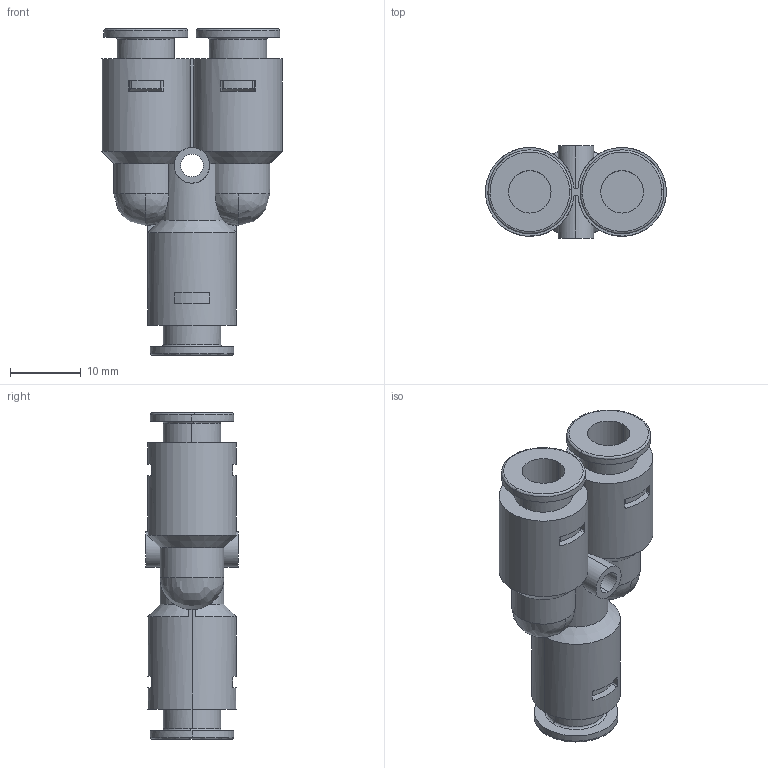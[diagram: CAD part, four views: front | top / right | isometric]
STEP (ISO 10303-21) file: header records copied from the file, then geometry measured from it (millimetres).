
FILE_DESCRIPTION (( 'STEP AP214' ), '1' );
FILE_NAME ('KQ2U06-00A.STEP', '2023-03-06T08:55:29', ( 'Windows User' ), ( 'P R C' ), 'SwSTEP 2.0', 'SolidWorks 2019', '' );
FILE_SCHEMA (( 'AUTOMOTIVE_DESIGN' ));
Length unit declared in the file: millimetre
Products named in the file (1): KQ2U06-00A
Bounding box: 25.48 x 13 x 46 mm (x, y, z)
Volume: 5663.8 mm3; surface area: 4778 mm2
Topology: 1 solids, 1 shells, 158 faces, 437 edges, 288 vertices
Faces by surface type: cylinder 76, plane 55, bspline 16, cone 11
Entity records: 5983 total; most frequent: CARTESIAN_POINT 2088, ORIENTED_EDGE 858, DIRECTION 759, EDGE_CURVE 429, AXIS2_PLACEMENT_3D 303, VERTEX_POINT 288, EDGE_LOOP 175, CIRCLE 160
